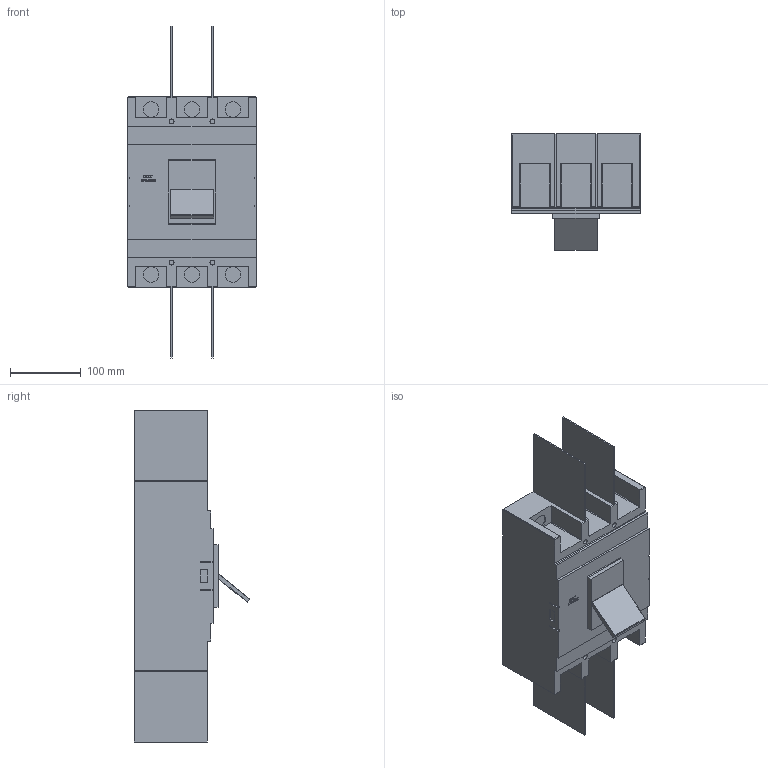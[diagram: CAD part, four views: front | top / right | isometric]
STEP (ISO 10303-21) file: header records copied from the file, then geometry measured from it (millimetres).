
FILE_DESCRIPTION(/* description */ ('','CAx-IF Rec.Pracs.---Representation and Presentation of Product Manufacturing Information (PMI)---3.8---2014-02-18'),/* implementation_level */ '2;1');
FILE_NAME(/* name */ 'C:\Users\ILYA\Desktop\NM1\Авт. выкл. NM1-630S3Р 500A 35кА (CHINT)\Авт. выкл. NM1-630S3Р 500A 35кА (CHINT).stp',/* time_stamp */ '2017-08-19T08:22:15+03:00',/* author */ ('ILYA'),/* organization */ (''),/* preprocessor_version */ 'ST-DEVELOPER v16.1',/* originating_system */ 'Autodesk Inventor 2016',/* authorisation */ '');
FILE_SCHEMA (('AP242_MANAGED_MODEL_BASED_3D_ENGINEERING_MIM_LF { 1 0 10303 442 1 1 4 }'));
Length unit declared in the file: millimetre
Products named in the file (1): Авт. выкл. NM1-63
0S3Р 500A 35кА (CHINT)
Bounding box: 182 x 164.29 x 470.5 mm (x, y, z)
Volume: 5015071 mm3; surface area: 315833.3 mm2
Topology: 1 solids, 1 shells, 353 faces, 956 edges, 628 vertices
Faces by surface type: plane 228, bspline 67, cylinder 50, torus 4, sphere 4
Full cylindrical faces by diameter (mm): 7 x4, 22 x6
Entity records: 11544 total; most frequent: CARTESIAN_POINT 3016, ORIENTED_EDGE 1880, DIRECTION 1478, EDGE_CURVE 940, LINE 700, VECTOR 700, VERTEX_POINT 622, AXIS2_PLACEMENT_3D 389
